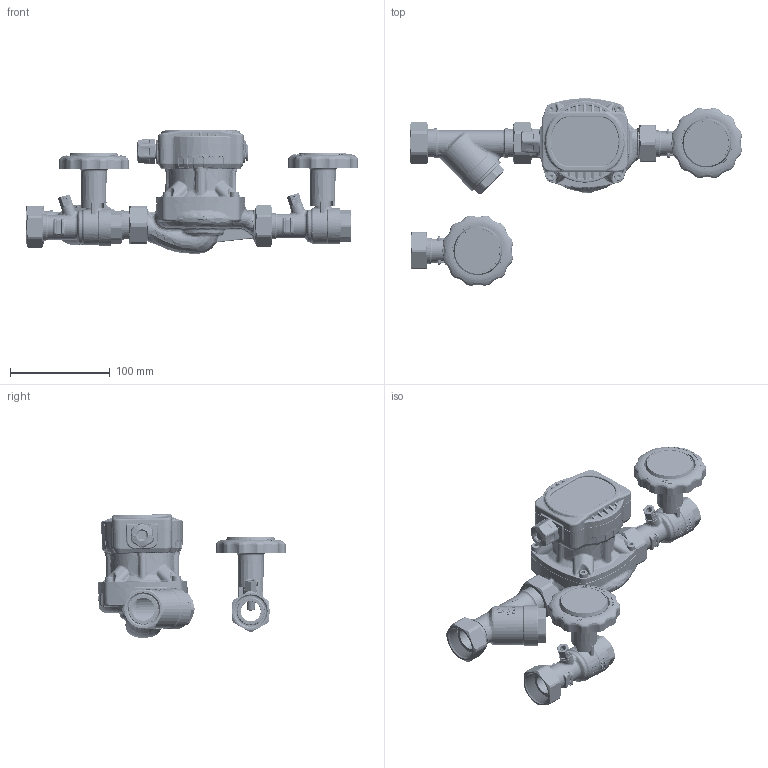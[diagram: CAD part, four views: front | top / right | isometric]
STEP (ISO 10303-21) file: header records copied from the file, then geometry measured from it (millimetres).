
FILE_DESCRIPTION (( 'STEP AP214' ), '1' );
FILE_NAME ('9099000.STEP', '2022-10-14T07:28:36', ( '' ), ( '' ), 'SwSTEP 2.0', 'SolidWorks 2022', '' );
FILE_SCHEMA (( 'AUTOMOTIVE_DESIGN' ));
Length unit declared in the file: millimetre
Products named in the file (27): 3438-Tappo Filtro Lavorato_2; O-ring-4125-PE32-52905023_2; Anello-Elastico-1460-Ř28x2-53105460_2; 90405017-1963-1DFx34F-GIALLO-MAN-NERA_ASSIEME; 10405027-1963-1DFx34F-Maniglia-Termometro-Nera_TERMOMETRO_1; Corpo-1963-DN20-Lavorato-30105655; Raccordo-840-34-Lavorato-31605312_Sabbiata; Guarnizione-840-34-ptfe-52705005; 70405017-1963-1DFx34F-GIALLO-MAN-NERA_ASSIEME; Grano-M4x6-52110003; Sfera-300-34-Lavorata-33208005; Assieme-Filtro1; 20405011-1963-34-GIALLO_ASSIEME; Asta-840-12-Unificata-30505300; Corpo-Filtro-Lavorato_2; 1961-S-Portasonda-_X2_0158_X0_6-Lavorato-30805032; O-ring-2018-EPDM 70 N01C; Dado-553-S-1-Lavorato-31505553; maniglia-1870-1871_Nera; Inserto-Maniglia-1870-52005071; 9099000; Filtro-1410-114-53505410_2; pokretlo na termometr; Anello-Elastico-553-S-1-53105253; Dado-Fissaggio-Maniglia-1870-A-31505091; APH-100-15-7-130_LFP; Dado-1460- 1-Lavorato-31505460_2
Assembly tree (32 placements, depth 6):
  9099000
    Assieme-Filtro1
      Corpo-Filtro-Lavorato_2
      Anello-Elastico-1460-Ř28x2-53105460_2  x2
      Dado-1460- 1-Lavorato-31505460_2  x2
      3438-Tappo Filtro Lavorato_2
      Filtro-1410-114-53505410_2
      O-ring-4125-PE32-52905023_2
    pokretlo na termometr  x2
    10405027-1963-1DFx34F-Maniglia-Termometro-Nera_TERMOMETRO_1  x2
      70405017-1963-1DFx34F-GIALLO-MAN-NERA_ASSIEME
        90405017-1963-1DFx34F-GIALLO-MAN-NERA_ASSIEME
          20405011-1963-34-GIALLO_ASSIEME
            Corpo-1963-DN20-Lavorato-30105655
            Sfera-300-34-Lavorata-33208005
            Guarnizione-840-34-ptfe-52705005  x2
            Asta-840-12-Unificata-30505300
            O-ring-2018-EPDM 70 N01C  x2
            Raccordo-840-34-Lavorato-31605312_Sabbiata
          maniglia-1870-1871_Nera
          Dado-Fissaggio-Maniglia-1870-A-31505091
          Inserto-Maniglia-1870-52005071
          Grano-M4x6-52110003
          1961-S-Portasonda-_X2_0158_X0_6-Lavorato-30805032
        Anello-Elastico-553-S-1-53105253
        Dado-553-S-1-Lavorato-31505553
    APH-100-15-7-130_LFP
Bounding box: 333.23 x 188.41 x 124.03 mm (x, y, z)
Volume: 850055 mm3; surface area: 255372.8 mm2
Topology: 51 solids, 57 shells, 7827 faces, 19130 edges, 11703 vertices
Faces by surface type: plane 2397, bspline 2019, cone 1600, cylinder 1477, torus 270, sphere 64
Entity records: 297535 total; most frequent: CARTESIAN_POINT 171643, ORIENTED_EDGE 25516, DIRECTION 17307, EDGE_CURVE 12758, VERTEX_POINT 7796, AXIS2_PLACEMENT_3D 6459, EDGE_LOOP 5550, FACE_OUTER_BOUND 5263
